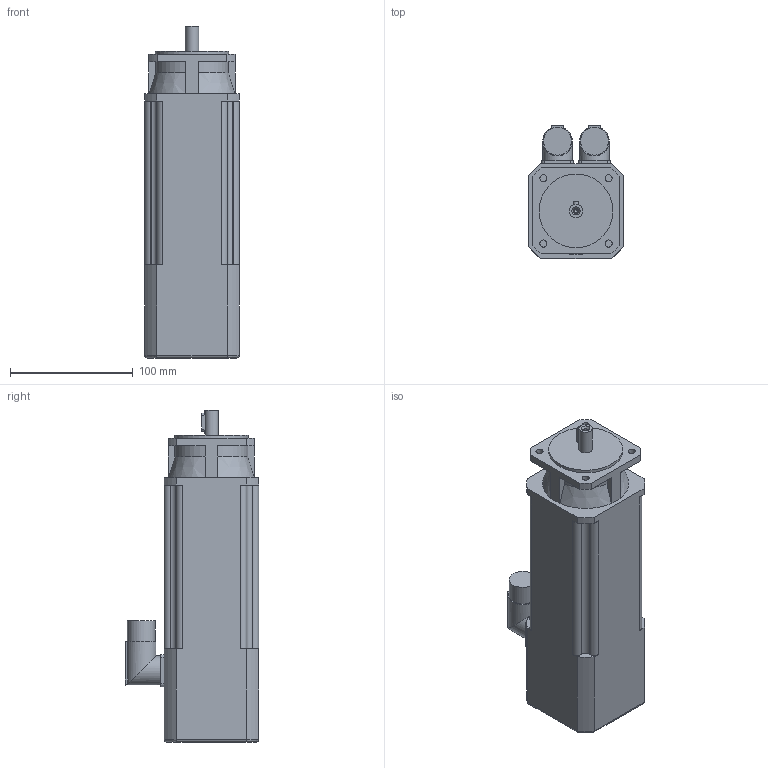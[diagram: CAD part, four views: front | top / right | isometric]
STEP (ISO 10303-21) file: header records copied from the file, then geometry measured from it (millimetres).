
FILE_DESCRIPTION(/* description */ (''),/* implementation_level */ '2;1');
FILE_NAME(/* name */ '\\Lafnas01\disegni\Archivi Lafert\3D\CAD 3D\MODELLI\Assiemi clienti\Serad\Modelli 3D Serad\B36I\Encoder\Enc Without Brake\B36F5Ixx6ARx2033.ipt.stp',/* time_stamp */ '2015-09-07T10:49:02+02:00',/* author */ ('Pastrello Ylenia'),/* organization */ (''),/* preprocessor_version */ 'ST-DEVELOPER v15.6',/* originating_system */ 'Autodesk Inventor 2015',/* authorisation */ '');
FILE_SCHEMA (('AUTOMOTIVE_DESIGN { 1 0 10303 214 3 1 1 }'));
Length unit declared in the file: millimetre
Products named in the file (1): B36F5Ixx6ARx2033
Bounding box: 77 x 108.5 x 270 mm (x, y, z)
Volume: 1383440.1 mm3; surface area: 94000 mm2
Topology: 1 solids, 1 shells, 135 faces, 364 edges, 240 vertices
Faces by surface type: plane 64, cylinder 56, cone 11, torus 4
Full cylindrical faces by diameter (mm): 3.242 x1, 4.3 x1, 5.8 x4, 11 x1, 22.7 x2, 24 x2, 60 x1
Entity records: 4274 total; most frequent: CARTESIAN_POINT 876, DIRECTION 712, ORIENTED_EDGE 686, EDGE_CURVE 343, AXIS2_PLACEMENT_3D 255, VERTEX_POINT 235, LINE 202, VECTOR 202
